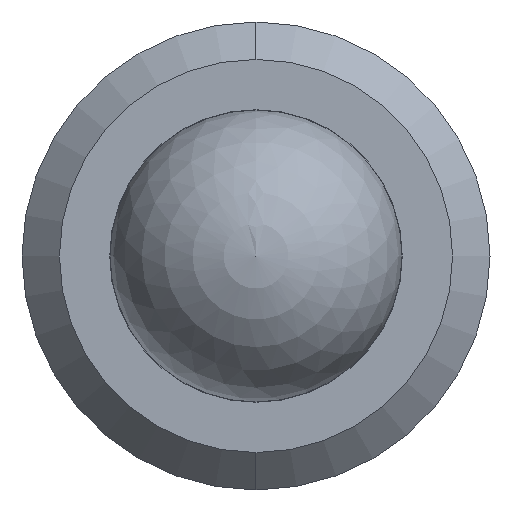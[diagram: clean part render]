
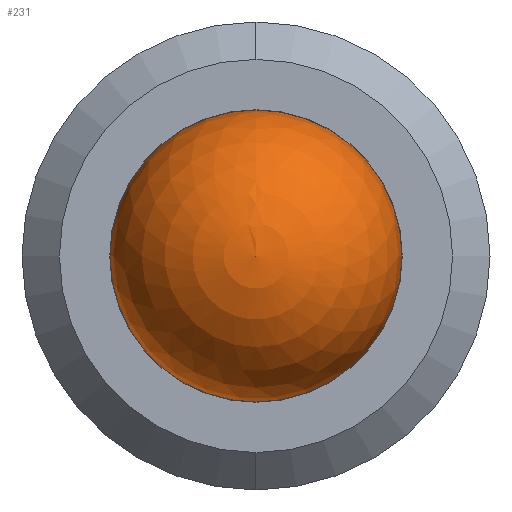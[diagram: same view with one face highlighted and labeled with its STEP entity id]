
A CAD part, left-side view. The second image highlights one B-rep face of the part: STEP entity #231.
In plain terms, the highlighted spherical face has radius 1.984 mm.
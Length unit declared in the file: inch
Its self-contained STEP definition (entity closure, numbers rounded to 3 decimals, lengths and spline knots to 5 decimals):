
#64 = DIRECTION ( 'NONE',  ( -1., 0., 0. ) ) ;
#81 = SPHERICAL_SURFACE ( 'NONE', #90, 0.07813 ) ;
#90 = AXIS2_PLACEMENT_3D ( 'NONE', #549, #64, #598 ) ;
#92 = DIRECTION ( 'NONE',  ( 1., 0., 0. ) ) ;
#138 = AXIS2_PLACEMENT_3D ( 'NONE', #368, #92, #423 ) ;
#139 = EDGE_CURVE ( 'NONE', #242, #338, #174, .T. ) ;
#143 = EDGE_CURVE ( 'NONE', #242, #338, #578, .T. ) ;
#149 = AXIS2_PLACEMENT_3D ( 'NONE', #573, #276, #624 ) ;
#174 = CIRCLE ( 'NONE', #149, 0.07813 ) ;
#231 = ADVANCED_FACE ( 'NONE', ( #611 ), #81, .T. ) ;
#239 = EDGE_LOOP ( 'NONE', ( #428, #494 ) ) ;
#242 = VERTEX_POINT ( 'NONE', #502 ) ;
#276 = DIRECTION ( 'NONE',  ( -1., 0., 0. ) ) ;
#338 = VERTEX_POINT ( 'NONE', #404 ) ;
#368 = CARTESIAN_POINT ( 'NONE',  ( 0., 0., 0. ) ) ;
#404 = CARTESIAN_POINT ( 'NONE',  ( 0., -0.07813, 0. ) ) ;
#423 = DIRECTION ( 'NONE',  ( 0., 0., -1. ) ) ;
#428 = ORIENTED_EDGE ( 'NONE', *, *, #143, .F. ) ;
#494 = ORIENTED_EDGE ( 'NONE', *, *, #139, .T. ) ;
#502 = CARTESIAN_POINT ( 'NONE',  ( 0., 0.07813, 0. ) ) ;
#549 = CARTESIAN_POINT ( 'NONE',  ( 0., 0., 0. ) ) ;
#573 = CARTESIAN_POINT ( 'NONE',  ( 0., 0., 0. ) ) ;
#578 = CIRCLE ( 'NONE', #138, 0.07813 ) ;
#598 = DIRECTION ( 'NONE',  ( 0., 0., 1. ) ) ;
#611 = FACE_OUTER_BOUND ( 'NONE', #239, .T. ) ;
#624 = DIRECTION ( 'NONE',  ( 0., 0., 1. ) ) ;
